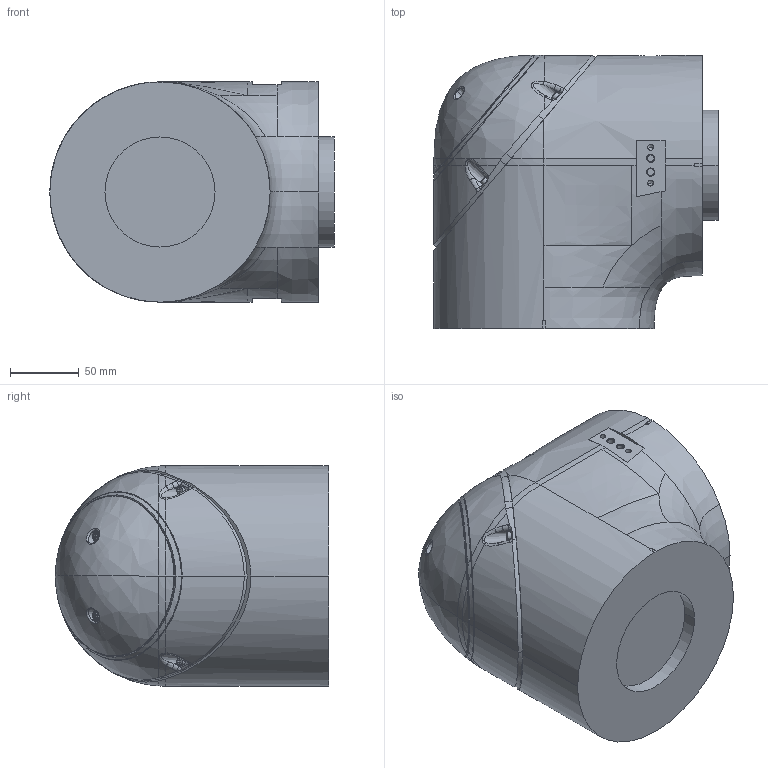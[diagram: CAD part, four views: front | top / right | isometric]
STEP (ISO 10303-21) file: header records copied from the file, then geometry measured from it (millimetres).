
FILE_DESCRIPTION(/* description */ ('AP214 STEP file'),/* implementation_level */ '2;1');
FILE_NAME(/* name */ '1300_model-c002_stp',/* time_stamp */ '2023-03-07T19:20:26+09:00',/* author */ (''),/* organization */ (''),/* preprocessor_version */ '7.2.1.0',/* originating_system */ 'Elysium Co. Ltd. STEP Translator',/* authorisation */ '');
FILE_SCHEMA (('AUTOMOTIVE_DESIGN'));
Length unit declared in the file: millimetre
Products named in the file (1): 1300_MODEL-C002
Bounding box: 206.5 x 198.52 x 160 mm (x, y, z)
Volume: 4671269.3 mm3; surface area: 160974.2 mm2
Topology: 1 solids, 1 shells, 330 faces, 824 edges, 506 vertices
Faces by surface type: bspline 104, plane 100, cylinder 62, cone 38, torus 16, extrusion 6, sphere 4
Entity records: 17278 total; most frequent: CARTESIAN_POINT 10727, ORIENTED_EDGE 1624, EDGE_CURVE 812, DIRECTION 729, VERTEX_POINT 506, AXIS2_PLACEMENT_3D 423, EDGE_LOOP 352, B_SPLINE_CURVE_WITH_KNOTS 346
